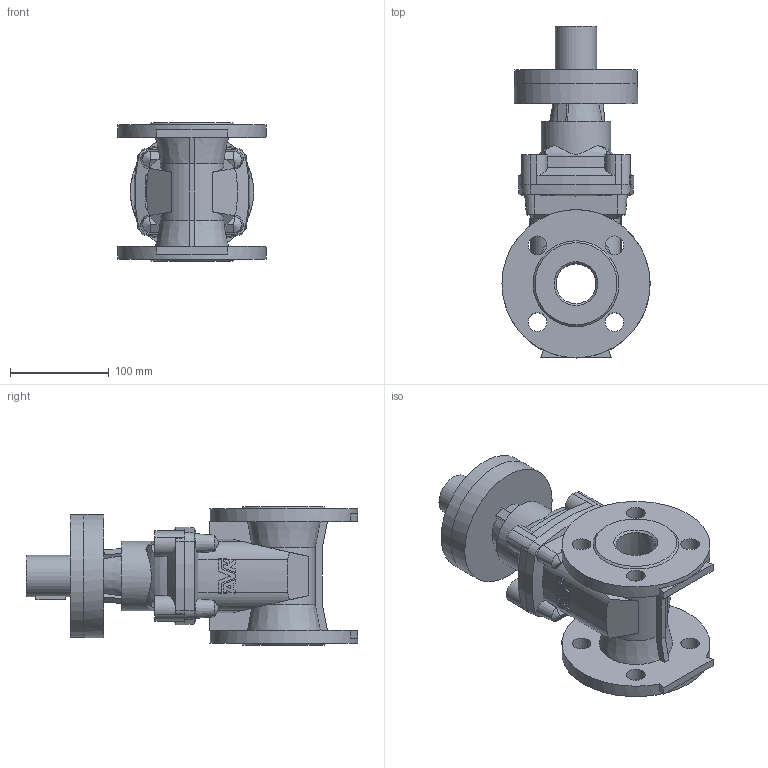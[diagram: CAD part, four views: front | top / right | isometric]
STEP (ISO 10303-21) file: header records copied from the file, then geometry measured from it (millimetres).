
FILE_DESCRIPTION (( 'STEP AP203' ), '1' );
FILE_NAME ('O_15_40_DN040_X1X_AA0.step', '2017-03-10T07:54:23', ( 'Windows User' ), ( 'AVK' ), 'SwSTEP 2.0', 'SolidWorks 2012', '' );
FILE_SCHEMA (( 'CONFIG_CONTROL_DESIGN' ));
Length unit declared in the file: millimetre
Products named in the file (1): O_15_40_DN040_X1X_AA0
Bounding box: 150 x 336 x 140 mm (x, y, z)
Volume: 2104788.2 mm3; surface area: 222088.7 mm2
Topology: 1 solids, 1 shells, 246 faces, 658 edges, 429 vertices
Faces by surface type: plane 117, cylinder 70, cone 55, torus 4
Full cylindrical faces by diameter (mm): 8.5 x4, 11.5 x4, 19 x8, 42 x1, 50 x1, 70 x1, 125 x2, 150 x2
Entity records: 8317 total; most frequent: CARTESIAN_POINT 2537, ORIENTED_EDGE 1224, DIRECTION 1126, EDGE_CURVE 612, AXIS2_PLACEMENT_3D 443, VERTEX_POINT 412, EDGE_LOOP 308, FACE_OUTER_BOUND 269
